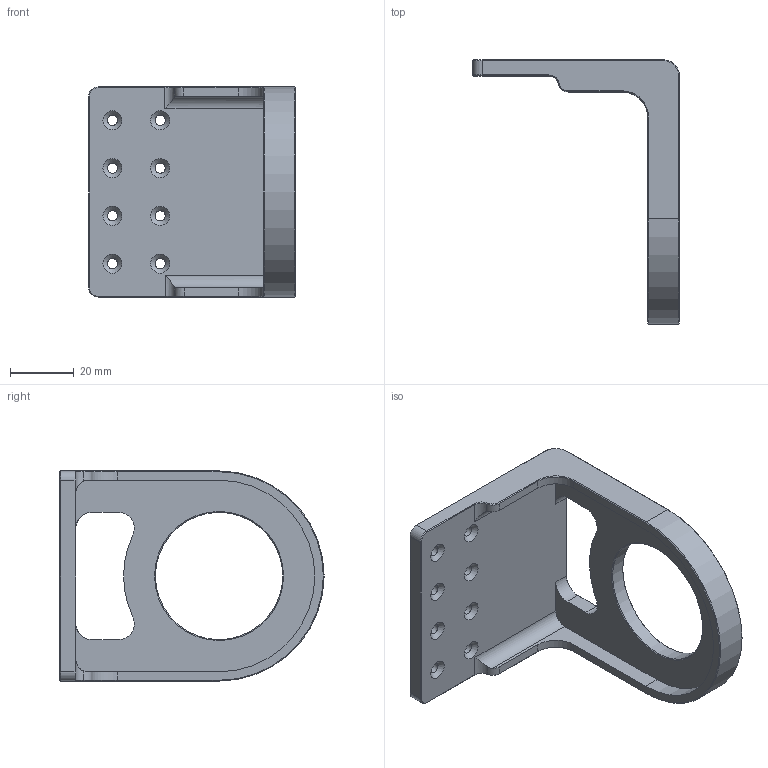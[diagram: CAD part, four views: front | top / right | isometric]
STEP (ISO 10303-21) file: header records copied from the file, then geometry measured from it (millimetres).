
FILE_DESCRIPTION(/* description */ (''),/* implementation_level */ '2;1');
FILE_NAME(/* name */ 'LINEAR BRACKET.step',/* time_stamp */ '2026-10-23T15:40:33+05:30',/* author */ (''),/* organization */ (''),/* preprocessor_version */ 'ST-DEVELOPER v20.2',/* originating_system */ 'Autodesk Translation Framework v15.15.0.0',/* authorisation */ '');
FILE_SCHEMA (('AUTOMOTIVE_DESIGN { 1 0 10303 214 3 1 1 }'));
Length unit declared in the file: millimetre
Products named in the file (1): 2026-10-16-15-08-47-762
Bounding box: 65 x 83 x 66 mm (x, y, z)
Volume: 38354.2 mm3; surface area: 19464.8 mm2
Topology: 1 solids, 1 shells, 87 faces, 215 edges, 128 vertices
Faces by surface type: plane 29, cone 29, cylinder 27, bspline 2
Full cylindrical faces by diameter (mm): 3.2 x8, 40 x1
Entity records: 2668 total; most frequent: CARTESIAN_POINT 501, DIRECTION 458, ORIENTED_EDGE 430, EDGE_CURVE 215, AXIS2_PLACEMENT_3D 165, LINE 128, VECTOR 128, VERTEX_POINT 128
